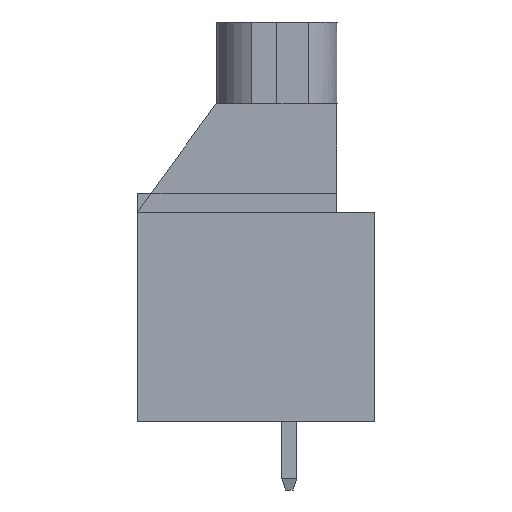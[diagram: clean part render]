
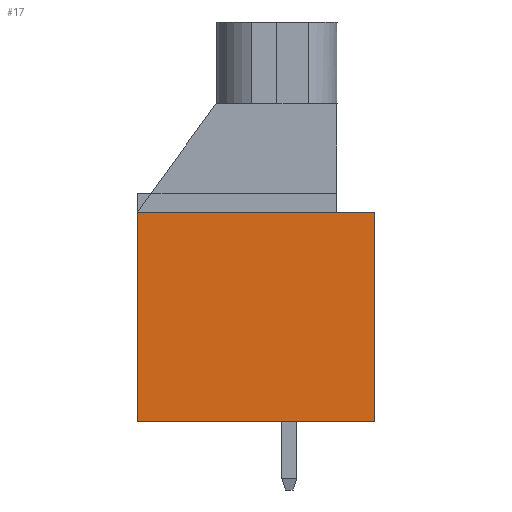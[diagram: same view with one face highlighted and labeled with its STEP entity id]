
A CAD part, left-side view. The second image highlights one B-rep face of the part: STEP entity #17.
In plain terms, the highlighted planar face has unit normal (-1, 0, 0).
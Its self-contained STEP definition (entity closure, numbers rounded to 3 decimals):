
#17 = ADVANCED_FACE('',(#18),#32,.F.);
#18 = FACE_BOUND('',#19,.F.);
#19 = EDGE_LOOP('',(#20,#55,#83,#111,#139));
#20 = ORIENTED_EDGE('',*,*,#21,.F.);
#21 = EDGE_CURVE('',#22,#24,#26,.T.);
#22 = VERTEX_POINT('',#23);
#23 = CARTESIAN_POINT('',(-3.175,-4.5,0.));
#24 = VERTEX_POINT('',#25);
#25 = CARTESIAN_POINT('',(-3.175,-4.5,11.));
#26 = SURFACE_CURVE('',#27,(#31,#43),.PCURVE_S1.);
#27 = LINE('',#28,#29);
#28 = CARTESIAN_POINT('',(-3.175,-4.5,0.));
#29 = VECTOR('',#30,1.);
#30 = DIRECTION('',(0.,0.,1.));
#31 = PCURVE('',#32,#37);
#32 = PLANE('',#33);
#33 = AXIS2_PLACEMENT_3D('',#34,#35,#36);
#34 = CARTESIAN_POINT('',(-3.175,-4.5,0.));
#35 = DIRECTION('',(1.,0.,0.));
#36 = DIRECTION('',(0.,0.,1.));
#37 = DEFINITIONAL_REPRESENTATION('',(#38),#42);
#38 = LINE('',#39,#40);
#39 = CARTESIAN_POINT('',(0.,0.));
#40 = VECTOR('',#41,1.);
#41 = DIRECTION('',(1.,0.));
#42 = ( GEOMETRIC_REPRESENTATION_CONTEXT(2) 
PARAMETRIC_REPRESENTATION_CONTEXT() REPRESENTATION_CONTEXT('2D SPACE',''
  ) );
#43 = PCURVE('',#44,#49);
#44 = PLANE('',#45);
#45 = AXIS2_PLACEMENT_3D('',#46,#47,#48);
#46 = CARTESIAN_POINT('',(-3.175,-4.5,0.));
#47 = DIRECTION('',(0.,1.,0.));
#48 = DIRECTION('',(0.,0.,1.));
#49 = DEFINITIONAL_REPRESENTATION('',(#50),#54);
#50 = LINE('',#51,#52);
#51 = CARTESIAN_POINT('',(0.,0.));
#52 = VECTOR('',#53,1.);
#53 = DIRECTION('',(1.,0.));
#54 = ( GEOMETRIC_REPRESENTATION_CONTEXT(2) 
PARAMETRIC_REPRESENTATION_CONTEXT() REPRESENTATION_CONTEXT('2D SPACE',''
  ) );
#55 = ORIENTED_EDGE('',*,*,#56,.T.);
#56 = EDGE_CURVE('',#22,#57,#59,.T.);
#57 = VERTEX_POINT('',#58);
#58 = CARTESIAN_POINT('',(-3.175,8.,0.));
#59 = SURFACE_CURVE('',#60,(#64,#71),.PCURVE_S1.);
#60 = LINE('',#61,#62);
#61 = CARTESIAN_POINT('',(-3.175,-4.5,0.));
#62 = VECTOR('',#63,1.);
#63 = DIRECTION('',(0.,1.,0.));
#64 = PCURVE('',#32,#65);
#65 = DEFINITIONAL_REPRESENTATION('',(#66),#70);
#66 = LINE('',#67,#68);
#67 = CARTESIAN_POINT('',(0.,0.));
#68 = VECTOR('',#69,1.);
#69 = DIRECTION('',(0.,-1.));
#70 = ( GEOMETRIC_REPRESENTATION_CONTEXT(2) 
PARAMETRIC_REPRESENTATION_CONTEXT() REPRESENTATION_CONTEXT('2D SPACE',''
  ) );
#71 = PCURVE('',#72,#77);
#72 = PLANE('',#73);
#73 = AXIS2_PLACEMENT_3D('',#74,#75,#76);
#74 = CARTESIAN_POINT('',(-3.175,-4.5,0.));
#75 = DIRECTION('',(0.,0.,1.));
#76 = DIRECTION('',(1.,0.,0.));
#77 = DEFINITIONAL_REPRESENTATION('',(#78),#82);
#78 = LINE('',#79,#80);
#79 = CARTESIAN_POINT('',(0.,0.));
#80 = VECTOR('',#81,1.);
#81 = DIRECTION('',(0.,1.));
#82 = ( GEOMETRIC_REPRESENTATION_CONTEXT(2) 
PARAMETRIC_REPRESENTATION_CONTEXT() REPRESENTATION_CONTEXT('2D SPACE',''
  ) );
#83 = ORIENTED_EDGE('',*,*,#84,.T.);
#84 = EDGE_CURVE('',#57,#85,#87,.T.);
#85 = VERTEX_POINT('',#86);
#86 = CARTESIAN_POINT('',(-3.175,8.,11.));
#87 = SURFACE_CURVE('',#88,(#92,#99),.PCURVE_S1.);
#88 = LINE('',#89,#90);
#89 = CARTESIAN_POINT('',(-3.175,8.,0.));
#90 = VECTOR('',#91,1.);
#91 = DIRECTION('',(0.,0.,1.));
#92 = PCURVE('',#32,#93);
#93 = DEFINITIONAL_REPRESENTATION('',(#94),#98);
#94 = LINE('',#95,#96);
#95 = CARTESIAN_POINT('',(0.,-12.5));
#96 = VECTOR('',#97,1.);
#97 = DIRECTION('',(1.,0.));
#98 = ( GEOMETRIC_REPRESENTATION_CONTEXT(2) 
PARAMETRIC_REPRESENTATION_CONTEXT() REPRESENTATION_CONTEXT('2D SPACE',''
  ) );
#99 = PCURVE('',#100,#105);
#100 = PLANE('',#101);
#101 = AXIS2_PLACEMENT_3D('',#102,#103,#104);
#102 = CARTESIAN_POINT('',(-3.175,8.,0.));
#103 = DIRECTION('',(0.,1.,0.));
#104 = DIRECTION('',(0.,0.,1.));
#105 = DEFINITIONAL_REPRESENTATION('',(#106),#110);
#106 = LINE('',#107,#108);
#107 = CARTESIAN_POINT('',(0.,0.));
#108 = VECTOR('',#109,1.);
#109 = DIRECTION('',(1.,0.));
#110 = ( GEOMETRIC_REPRESENTATION_CONTEXT(2) 
PARAMETRIC_REPRESENTATION_CONTEXT() REPRESENTATION_CONTEXT('2D SPACE',''
  ) );
#111 = ORIENTED_EDGE('',*,*,#112,.F.);
#112 = EDGE_CURVE('',#113,#85,#115,.T.);
#113 = VERTEX_POINT('',#114);
#114 = CARTESIAN_POINT('',(-3.175,-2.5,11.));
#115 = SURFACE_CURVE('',#116,(#120,#127),.PCURVE_S1.);
#116 = LINE('',#117,#118);
#117 = CARTESIAN_POINT('',(-3.175,-4.5,11.));
#118 = VECTOR('',#119,1.);
#119 = DIRECTION('',(0.,1.,0.));
#120 = PCURVE('',#32,#121);
#121 = DEFINITIONAL_REPRESENTATION('',(#122),#126);
#122 = LINE('',#123,#124);
#123 = CARTESIAN_POINT('',(11.,0.));
#124 = VECTOR('',#125,1.);
#125 = DIRECTION('',(0.,-1.));
#126 = ( GEOMETRIC_REPRESENTATION_CONTEXT(2) 
PARAMETRIC_REPRESENTATION_CONTEXT() REPRESENTATION_CONTEXT('2D SPACE',''
  ) );
#127 = PCURVE('',#128,#133);
#128 = PLANE('',#129);
#129 = AXIS2_PLACEMENT_3D('',#130,#131,#132);
#130 = CARTESIAN_POINT('',(-3.175,-2.5,11.));
#131 = DIRECTION('',(1.,0.,0.));
#132 = DIRECTION('',(0.,0.,1.));
#133 = DEFINITIONAL_REPRESENTATION('',(#134),#138);
#134 = LINE('',#135,#136);
#135 = CARTESIAN_POINT('',(0.,2.));
#136 = VECTOR('',#137,1.);
#137 = DIRECTION('',(0.,-1.));
#138 = ( GEOMETRIC_REPRESENTATION_CONTEXT(2) 
PARAMETRIC_REPRESENTATION_CONTEXT() REPRESENTATION_CONTEXT('2D SPACE',''
  ) );
#139 = ORIENTED_EDGE('',*,*,#140,.F.);
#140 = EDGE_CURVE('',#24,#113,#141,.T.);
#141 = SURFACE_CURVE('',#142,(#146,#153),.PCURVE_S1.);
#142 = LINE('',#143,#144);
#143 = CARTESIAN_POINT('',(-3.175,-4.5,11.));
#144 = VECTOR('',#145,1.);
#145 = DIRECTION('',(0.,1.,0.));
#146 = PCURVE('',#32,#147);
#147 = DEFINITIONAL_REPRESENTATION('',(#148),#152);
#148 = LINE('',#149,#150);
#149 = CARTESIAN_POINT('',(11.,0.));
#150 = VECTOR('',#151,1.);
#151 = DIRECTION('',(0.,-1.));
#152 = ( GEOMETRIC_REPRESENTATION_CONTEXT(2) 
PARAMETRIC_REPRESENTATION_CONTEXT() REPRESENTATION_CONTEXT('2D SPACE',''
  ) );
#153 = PCURVE('',#154,#159);
#154 = PLANE('',#155);
#155 = AXIS2_PLACEMENT_3D('',#156,#157,#158);
#156 = CARTESIAN_POINT('',(-3.175,-4.5,11.));
#157 = DIRECTION('',(0.,0.,1.));
#158 = DIRECTION('',(1.,0.,0.));
#159 = DEFINITIONAL_REPRESENTATION('',(#160),#164);
#160 = LINE('',#161,#162);
#161 = CARTESIAN_POINT('',(0.,0.));
#162 = VECTOR('',#163,1.);
#163 = DIRECTION('',(0.,1.));
#164 = ( GEOMETRIC_REPRESENTATION_CONTEXT(2) 
PARAMETRIC_REPRESENTATION_CONTEXT() REPRESENTATION_CONTEXT('2D SPACE',''
  ) );
